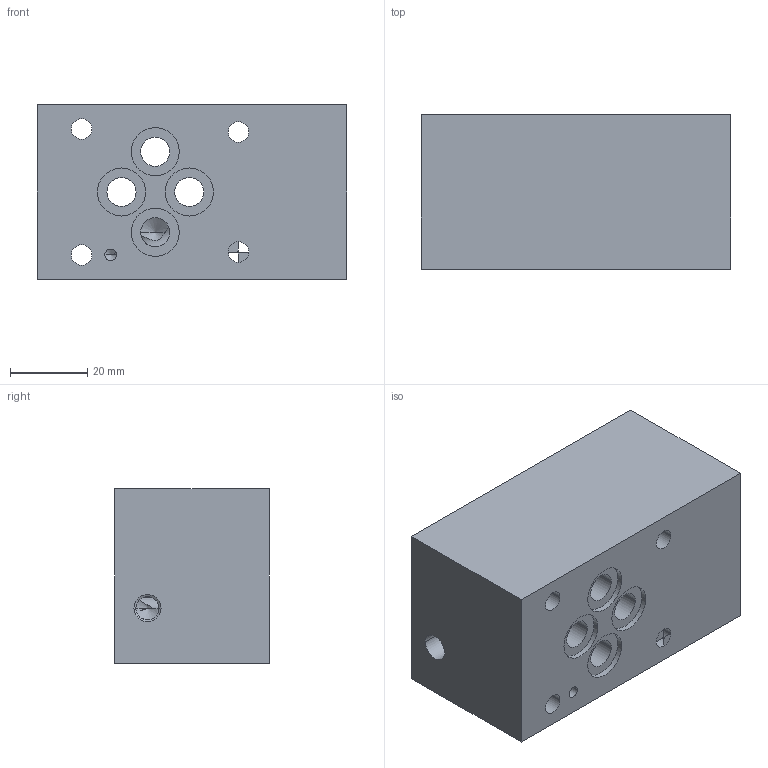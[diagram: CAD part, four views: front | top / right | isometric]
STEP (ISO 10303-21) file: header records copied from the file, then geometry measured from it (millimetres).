
FILE_DESCRIPTION((''),'2;1');
FILE_NAME('24347100','2023-10-12T',('l.soukupova'),(''),'PRO/ENGINEER BY PARAMETRIC TECHNOLOGY CORPORATION, 2015440','PRO/ENGINEER BY PARAMETRIC TECHNOLOGY CORPORATION, 2015440','');
FILE_SCHEMA(('AUTOMOTIVE_DESIGN { 1 0 10303 214 1 1 1 1 }'));
Length unit declared in the file: millimetre
Products named in the file (1): 24347100
Bounding box: 80 x 40 x 45 mm (x, y, z)
Volume: 120416.3 mm3; surface area: 27429.1 mm2
Topology: 1 solids, 4 shells, 91 faces, 388 edges, 356 vertices
Faces by surface type: cylinder 50, cone 26, plane 15
Entity records: 6016 total; most frequent: CARTESIAN_POINT 1223, DIRECTION 681, PRESENTATION_STYLE_ASSIGNMENT 450, ORIENTED_EDGE 446, STYLED_ITEM 418, CURVE_STYLE 415, AXIS2_PLACEMENT_3D 235, EDGE_CURVE 229
